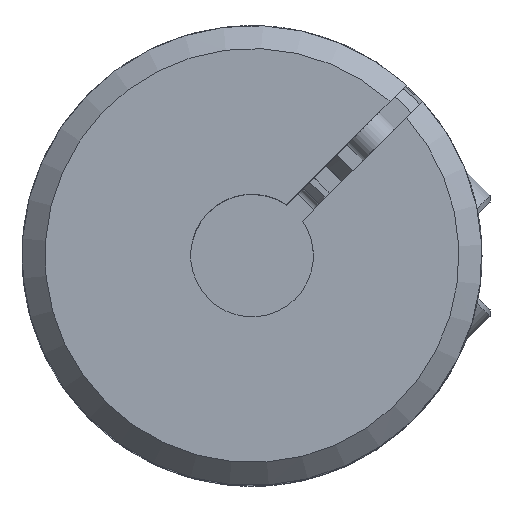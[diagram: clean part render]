
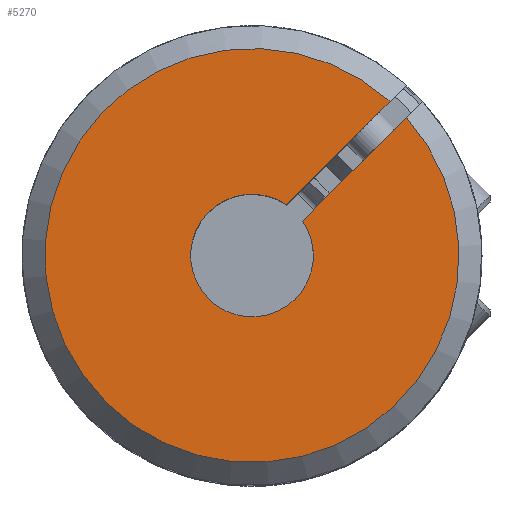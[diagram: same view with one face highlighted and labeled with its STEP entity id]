
A CAD part, top view. The second image highlights one B-rep face of the part: STEP entity #5270.
In plain terms, the highlighted planar face has unit normal (0, 0, 1).
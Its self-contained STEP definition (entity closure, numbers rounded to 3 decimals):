
#58=DIRECTION('',(-0.707,-0.707,0.));
#59=VECTOR('',#58,9.55);
#60=CARTESIAN_POINT('',(10.062,9.001,17.5));
#61=LINE('',#60,#59);
#62=DIRECTION('',(0.707,0.707,0.));
#63=VECTOR('',#62,9.55);
#64=CARTESIAN_POINT('',(2.248,3.309,17.5));
#65=LINE('',#64,#63);
#71=CARTESIAN_POINT('',(0.,0.,17.5));
#72=DIRECTION('',(0.,0.,-1.));
#73=DIRECTION('',(0.827,0.562,0.));
#74=AXIS2_PLACEMENT_3D('',#71,#72,#73);
#123=CARTESIAN_POINT('',(9.001,10.062,17.5));
#152=CARTESIAN_POINT('',(0.,0.,17.5));
#153=DIRECTION('',(0.,0.,1.));
#154=DIRECTION('',(0.667,0.745,0.));
#155=AXIS2_PLACEMENT_3D('',#152,#153,#154);
#183=CARTESIAN_POINT('',(10.062,9.001,17.5));
#4281=VERTEX_POINT('',#123);
#4284=VERTEX_POINT('',#183);
#4342=CARTESIAN_POINT('',(3.309,2.248,17.5));
#4344=VERTEX_POINT('',#4342);
#4346=CARTESIAN_POINT('',(2.248,3.309,17.5));
#4348=VERTEX_POINT('',#4346);
#5255=CARTESIAN_POINT('',(0.,0.,17.5));
#5256=DIRECTION('',(0.,0.,-1.));
#5257=DIRECTION('',(0.707,0.707,0.));
#5258=AXIS2_PLACEMENT_3D('',#5255,#5256,#5257);
#5259=PLANE('',#5258);
#5261=ORIENTED_EDGE('',*,*,#5260,.F.);
#5263=ORIENTED_EDGE('',*,*,#5262,.F.);
#5265=ORIENTED_EDGE('',*,*,#5264,.F.);
#5267=ORIENTED_EDGE('',*,*,#5266,.F.);
#5268=EDGE_LOOP('',(#5261,#5263,#5265,#5267));
#5269=FACE_OUTER_BOUND('',#5268,.F.);
#5270=ADVANCED_FACE('',(#5269),#5259,.F.);
#75=CIRCLE('',#74,4.);
#156=CIRCLE('',#155,13.5);
#5260=EDGE_CURVE('',#4344,#4348,#75,.T.);
#5262=EDGE_CURVE('',#4284,#4344,#61,.T.);
#5264=EDGE_CURVE('',#4281,#4284,#156,.T.);
#5266=EDGE_CURVE('',#4348,#4281,#65,.T.);
